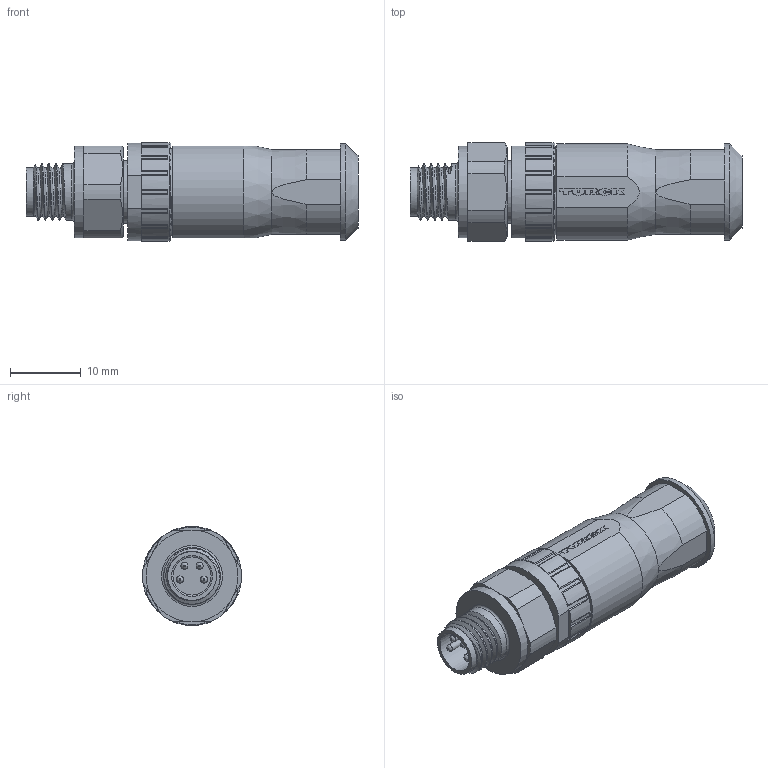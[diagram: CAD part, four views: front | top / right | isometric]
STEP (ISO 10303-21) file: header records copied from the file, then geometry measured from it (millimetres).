
FILE_DESCRIPTION(/* description */ (''),/* implementation_level */ '2;1');
FILE_NAME(/* name */ 'K:\Step\42\42K1A1706_4pol.stp',/* time_stamp */ '2018-01-10T11:26:26+01:00',/* author */ ('RuthChristen'),/* organization */ (''),/* preprocessor_version */ 'ST-DEVELOPER v16.13',/* originating_system */ 'Autodesk Inventor 2018',/* authorisation */ '');
FILE_SCHEMA (('AUTOMOTIVE_DESIGN { 1 0 10303 214 3 1 1 }'));
Length unit declared in the file: millimetre
Products named in the file (1): Bauteil1
Bounding box: 47 x 14 x 14 mm (x, y, z)
Volume: 5583.1 mm3; surface area: 2536 mm2
Topology: 1 solids, 1 shells, 203 faces, 545 edges, 360 vertices
Faces by surface type: plane 142, cylinder 32, bspline 18, cone 9, torus 2
Full cylindrical faces by diameter (mm): 1 x4, 5.8 x1, 6.9 x1, 8 x3, 8.8 x1, 13 x1, 13.7 x1, 14 x1
Entity records: 8154 total; most frequent: CARTESIAN_POINT 3038, ORIENTED_EDGE 1018, DIRECTION 971, EDGE_CURVE 509, VERTEX_POINT 344, AXIS2_PLACEMENT_3D 333, LINE 305, VECTOR 305
